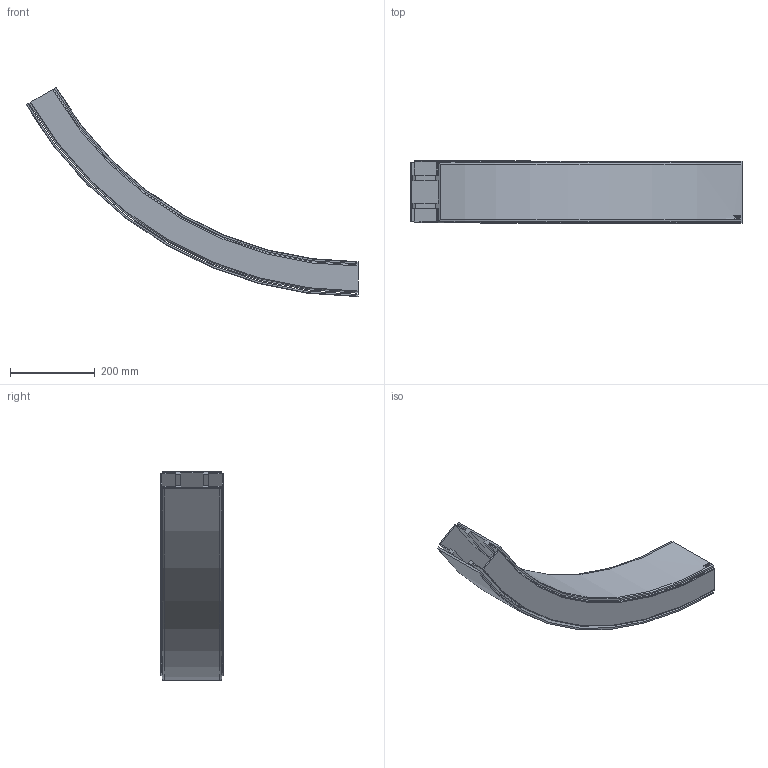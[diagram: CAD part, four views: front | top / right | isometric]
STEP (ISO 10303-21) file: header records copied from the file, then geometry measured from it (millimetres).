
FILE_DESCRIPTION(/* description */ ('VERTIKALKURVA S540 R860'),/* implementation_level */ '2;1');
FILE_NAME(/* name */ '540-5695+140-2000-UPP-01.stp',/* time_stamp */ '2022-09-21T11:19:44+02:00',/* author */ ('Mathias.Dore'),/* organization */ ('CARRYLINE'),/* preprocessor_version */ 'ST-DEVELOPER v19.2',/* originating_system */ 'Autodesk Inventor 2023',/* authorisation */ '');
FILE_SCHEMA (('AUTOMOTIVE_DESIGN { 1 0 10303 214 3 1 1 }'));
Length unit declared in the file: millimetre
Products named in the file (1): 540-5695+140-2000-UPP-01
Bounding box: 781.59 x 146 x 492.25 mm (x, y, z)
Volume: 2068643.5 mm3; surface area: 1076275.9 mm2
Topology: 2 solids, 2 shells, 87 faces, 234 edges, 156 vertices
Faces by surface type: plane 40, cylinder 25, bspline 14, cone 4, torus 4
Entity records: 7369 total; most frequent: CARTESIAN_POINT 5170, ORIENTED_EDGE 468, DIRECTION 408, EDGE_CURVE 234, VERTEX_POINT 156, AXIS2_PLACEMENT_3D 141, LINE 126, VECTOR 126
